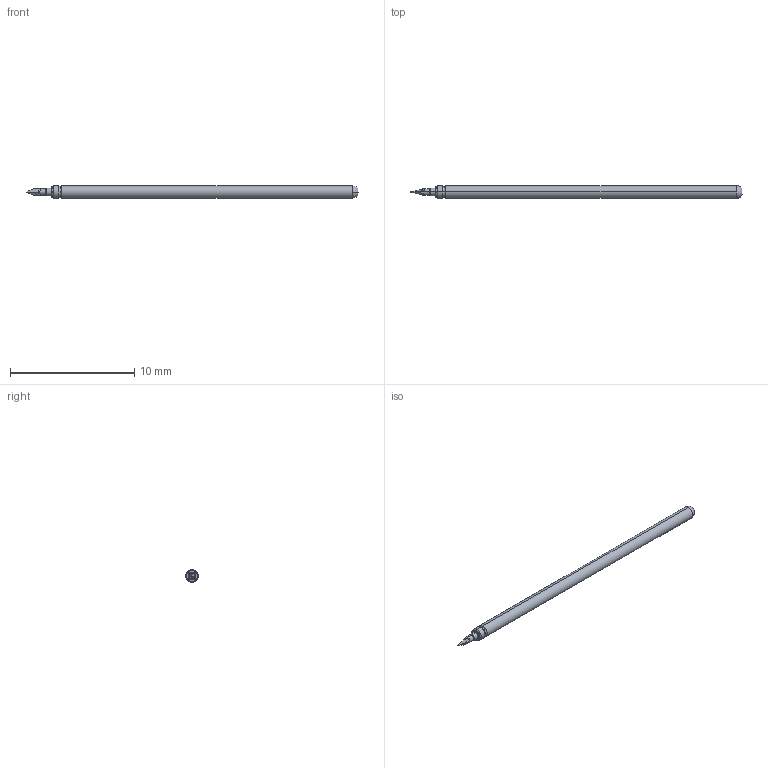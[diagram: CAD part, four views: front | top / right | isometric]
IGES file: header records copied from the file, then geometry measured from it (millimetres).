
Start section: SolidWorks IGES file using analytic representation for surfaces
Global section: file name: Z:\probe solid model mockups\Solidworks models\IGES Files\LFRE-1 IGES files\LFRE-1I40 FULL.IGS; native system: SolidWorks 2016; preprocessor: SolidWorks 2016; author: mlee; date: 180928.120014; units: inch
Bounding box: 26.67 x 1.02 x 1.02 mm (x, y, z)
Surface area: 81.9 mm2 (no closed solid volume)
Topology: 0 solids, 0 shells, 32 faces, 208 edges, 206 vertices
Faces by surface type: revolution 24, bspline 8
